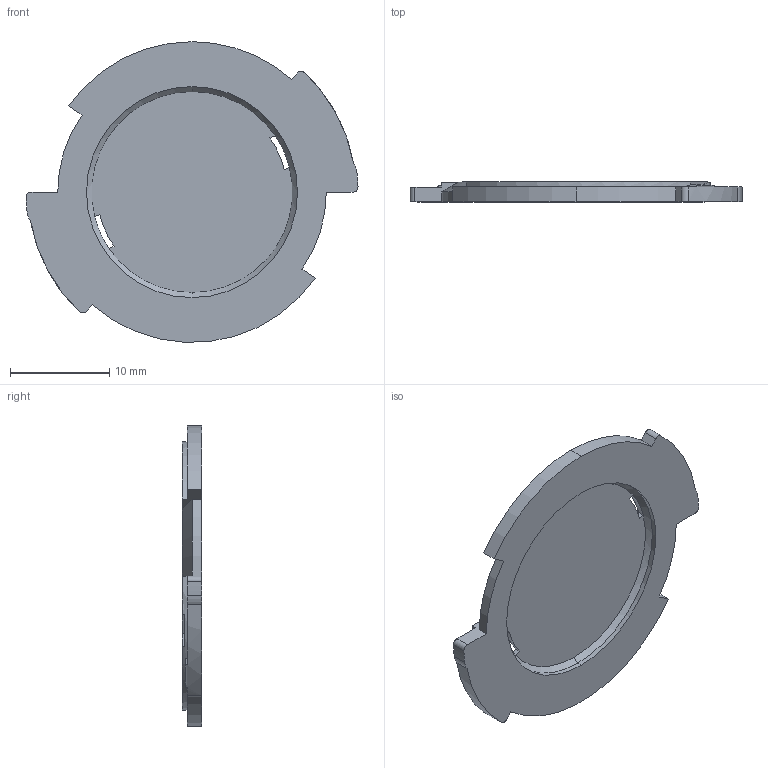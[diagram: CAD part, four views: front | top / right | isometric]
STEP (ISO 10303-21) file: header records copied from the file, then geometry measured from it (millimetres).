
FILE_DESCRIPTION (( 'STEP AP203' ), '1' );
FILE_NAME ('ARK-DF-SF2&4.STEP', '2024-10-07T19:44:58', ( '' ), ( '' ), 'SwSTEP 2.0', 'SolidWorks 2021', '' );
FILE_SCHEMA (( 'CONFIG_CONTROL_DESIGN' ));
Length unit declared in the file: millimetre
Products named in the file (1): ARK-DF-SF2&4
Bounding box: 33.38 x 2 x 30.23 mm (x, y, z)
Volume: 849.8 mm3; surface area: 1722.2 mm2
Topology: 1 solids, 1 shells, 65 faces, 191 edges, 125 vertices
Faces by surface type: cylinder 31, plane 25, cone 7, torus 2
Entity records: 2435 total; most frequent: CARTESIAN_POINT 574, DIRECTION 388, ORIENTED_EDGE 382, EDGE_CURVE 191, AXIS2_PLACEMENT_3D 147, VERTEX_POINT 125, VECTOR 94, LINE 94
